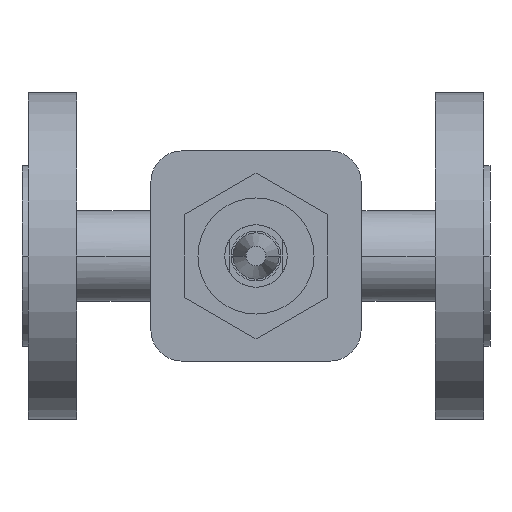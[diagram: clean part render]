
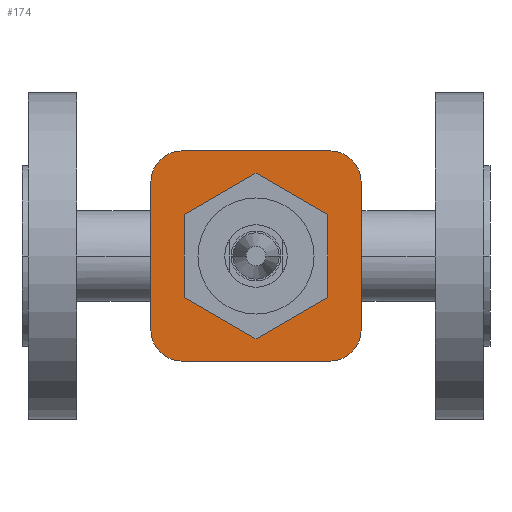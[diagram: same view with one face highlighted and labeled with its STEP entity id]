
A CAD part, front view. The second image highlights one B-rep face of the part: STEP entity #174.
In plain terms, the highlighted planar face has unit normal (0, -1, 0).
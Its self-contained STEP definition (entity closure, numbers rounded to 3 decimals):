
#174 = ADVANCED_FACE( '', ( #417, #418 ), #419, .T. );
#417 = FACE_OUTER_BOUND( '', #686, .T. );
#418 = FACE_BOUND( '', #687, .T. );
#419 = PLANE( '', #688 );
#686 = EDGE_LOOP( '', ( #1481, #1482, #1483, #1484, #1485, #1486, #1487, #1488 ) );
#687 = EDGE_LOOP( '', ( #1489, #1490 ) );
#688 = AXIS2_PLACEMENT_3D( '', #1491, #1492, #1493 );
#1481 = ORIENTED_EDGE( '', *, *, #1806, .T. );
#1482 = ORIENTED_EDGE( '', *, *, #1815, .T. );
#1483 = ORIENTED_EDGE( '', *, *, #1812, .T. );
#1484 = ORIENTED_EDGE( '', *, *, #1809, .T. );
#1485 = ORIENTED_EDGE( '', *, *, #1773, .T. );
#1486 = ORIENTED_EDGE( '', *, *, #1780, .T. );
#1487 = ORIENTED_EDGE( '', *, *, #1789, .T. );
#1488 = ORIENTED_EDGE( '', *, *, #1798, .T. );
#1489 = ORIENTED_EDGE( '', *, *, #1702, .T. );
#1490 = ORIENTED_EDGE( '', *, *, #1913, .T. );
#1491 = CARTESIAN_POINT( '', ( 107.75, -62., 0. ) );
#1492 = DIRECTION( '', ( 0., -1., 0. ) );
#1493 = DIRECTION( '', ( -1., 0., 0. ) );
#1702 = EDGE_CURVE( '', #2029, #2033, #2035, .T. );
#1773 = EDGE_CURVE( '', #2174, #2175, #2176, .T. );
#1780 = EDGE_CURVE( '', #2175, #2187, #2188, .T. );
#1789 = EDGE_CURVE( '', #2187, #2202, #2203, .T. );
#1798 = EDGE_CURVE( '', #2202, #2217, #2218, .T. );
#1806 = EDGE_CURVE( '', #2217, #2229, #2230, .T. );
#1809 = EDGE_CURVE( '', #2234, #2174, #2235, .T. );
#1812 = EDGE_CURVE( '', #2239, #2234, #2240, .T. );
#1815 = EDGE_CURVE( '', #2229, #2239, #2244, .T. );
#1913 = EDGE_CURVE( '', #2033, #2029, #2379, .T. );
#2029 = VERTEX_POINT( '', #2688 );
#2033 = VERTEX_POINT( '', #2693 );
#2035 = CIRCLE( '', #2696, 21. );
#2174 = VERTEX_POINT( '', #2873 );
#2175 = VERTEX_POINT( '', #2874 );
#2176 = LINE( '', #2875, #2876 );
#2187 = VERTEX_POINT( '', #2891 );
#2188 = CIRCLE( '', #2892, 10. );
#2202 = VERTEX_POINT( '', #2911 );
#2203 = LINE( '', #2912, #2913 );
#2217 = VERTEX_POINT( '', #2933 );
#2218 = CIRCLE( '', #2934, 10. );
#2229 = VERTEX_POINT( '', #2949 );
#2230 = LINE( '', #2950, #2951 );
#2234 = VERTEX_POINT( '', #2957 );
#2235 = CIRCLE( '', #2958, 10. );
#2239 = VERTEX_POINT( '', #2963 );
#2240 = LINE( '', #2964, #2965 );
#2244 = CIRCLE( '', #2971, 10. );
#2379 = CIRCLE( '', #3162, 21. );
#2688 = CARTESIAN_POINT( '', ( 96., -62., 0. ) );
#2693 = CARTESIAN_POINT( '', ( 54., -62., 0. ) );
#2696 = AXIS2_PLACEMENT_3D( '', #3444, #3445, #3446 );
#2873 = CARTESIAN_POINT( '', ( 108.688, -62., -23.688 ) );
#2874 = CARTESIAN_POINT( '', ( 108.688, -62., 23.688 ) );
#2875 = CARTESIAN_POINT( '', ( 108.688, -62., 11.844 ) );
#2876 = VECTOR( '', #3581, 1. );
#2891 = CARTESIAN_POINT( '', ( 98.688, -62., 33.688 ) );
#2892 = AXIS2_PLACEMENT_3D( '', #3592, #3593, #3594 );
#2911 = CARTESIAN_POINT( '', ( 51.312, -62., 33.688 ) );
#2912 = CARTESIAN_POINT( '', ( 79.531, -62., 33.688 ) );
#2913 = VECTOR( '', #3609, 1. );
#2933 = CARTESIAN_POINT( '', ( 41.312, -62., 23.688 ) );
#2934 = AXIS2_PLACEMENT_3D( '', #3622, #3623, #3624 );
#2949 = CARTESIAN_POINT( '', ( 41.312, -62., -23.688 ) );
#2950 = CARTESIAN_POINT( '', ( 41.312, -62., -11.844 ) );
#2951 = VECTOR( '', #3638, 1. );
#2957 = CARTESIAN_POINT( '', ( 98.688, -62., -33.688 ) );
#2958 = AXIS2_PLACEMENT_3D( '', #3641, #3642, #3643 );
#2963 = CARTESIAN_POINT( '', ( 51.312, -62., -33.688 ) );
#2964 = CARTESIAN_POINT( '', ( 103.219, -62., -33.688 ) );
#2965 = VECTOR( '', #3648, 1. );
#2971 = AXIS2_PLACEMENT_3D( '', #3651, #3652, #3653 );
#3162 = AXIS2_PLACEMENT_3D( '', #3833, #3834, #3835 );
#3444 = CARTESIAN_POINT( '', ( 75., -62., 0. ) );
#3445 = DIRECTION( '', ( 0., 1., 0. ) );
#3446 = DIRECTION( '', ( 1., 0., 0. ) );
#3581 = DIRECTION( '', ( 0., 0., 1. ) );
#3592 = CARTESIAN_POINT( '', ( 98.688, -62., 23.688 ) );
#3593 = DIRECTION( '', ( 0., -1., 0. ) );
#3594 = DIRECTION( '', ( 0., 0., 1. ) );
#3609 = DIRECTION( '', ( -1., 0., 0. ) );
#3622 = CARTESIAN_POINT( '', ( 51.312, -62., 23.688 ) );
#3623 = DIRECTION( '', ( 0., -1., 0. ) );
#3624 = DIRECTION( '', ( -1., 0., 0. ) );
#3638 = DIRECTION( '', ( 0., 0., -1. ) );
#3641 = CARTESIAN_POINT( '', ( 98.688, -62., -23.688 ) );
#3642 = DIRECTION( '', ( 0., -1., 0. ) );
#3643 = DIRECTION( '', ( 1., 0., 0. ) );
#3648 = DIRECTION( '', ( 1., 0., 0. ) );
#3651 = CARTESIAN_POINT( '', ( 51.312, -62., -23.688 ) );
#3652 = DIRECTION( '', ( 0., -1., 0. ) );
#3653 = DIRECTION( '', ( 0., 0., -1. ) );
#3833 = CARTESIAN_POINT( '', ( 75., -62., 0. ) );
#3834 = DIRECTION( '', ( 0., 1., 0. ) );
#3835 = DIRECTION( '', ( 1., 0., 0. ) );
